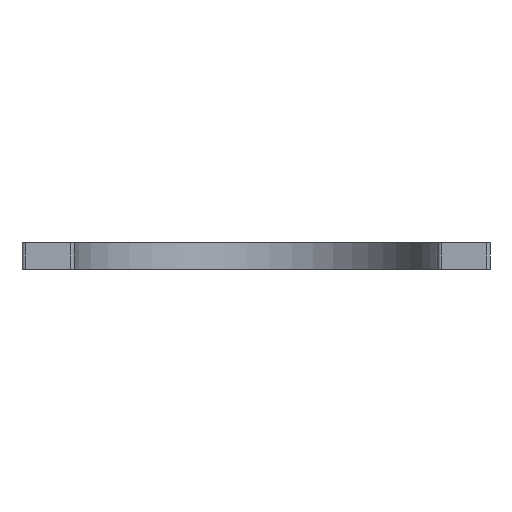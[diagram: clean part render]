
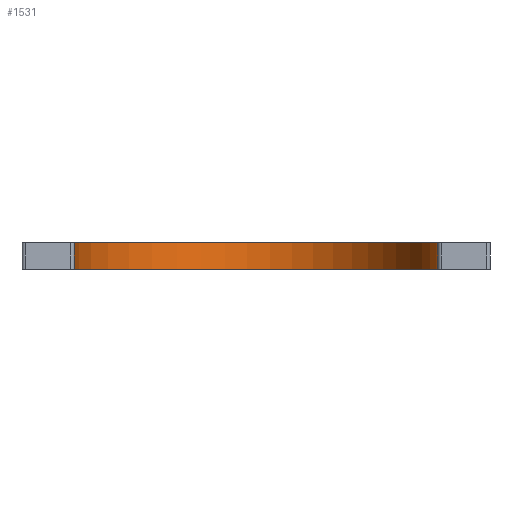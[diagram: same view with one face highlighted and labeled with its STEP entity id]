
A CAD part, front view. The second image highlights one B-rep face of the part: STEP entity #1531.
In plain terms, the highlighted free-form (B-spline) face has degree [3, 1] with [4, 2] control points.
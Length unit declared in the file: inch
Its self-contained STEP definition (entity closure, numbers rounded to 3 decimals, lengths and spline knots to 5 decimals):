
#365 = CARTESIAN_POINT ( 'NONE',  ( 2.1603, 16.96514, 0. ) ) ;
#1287 = CARTESIAN_POINT ( 'NONE',  ( 2.1603, 16.96514, -1. ) ) ;
#1531 = ADVANCED_FACE ( 'NONE', ( #3791 ), #7927, .T. ) ;
#1861 = VERTEX_POINT ( 'NONE', #9642 ) ;
#1959 = CARTESIAN_POINT ( 'NONE',  ( 1.9692, 0.12358, -1. ) ) ;
#1971 =( BOUNDED_CURVE ( )  B_SPLINE_CURVE ( 3, ( #5890, #2918, #3917, #8623 ),
 .UNSPECIFIED., .F., .F. ) 
 B_SPLINE_CURVE_WITH_KNOTS ( ( 4, 4 ),
 ( 4.72666, 7.83972 ),
 .UNSPECIFIED. ) 
 CURVE ( )  GEOMETRIC_REPRESENTATION_ITEM ( )  RATIONAL_B_SPLINE_CURVE ( ( 1., 0.343, 0.343, 1. ) ) 
 REPRESENTATION_ITEM ( '' )  );
#2151 = CARTESIAN_POINT ( 'NONE',  ( 1.9692, 0.12358, -1. ) ) ;
#2188 = CARTESIAN_POINT ( 'NONE',  ( 15.55621, 16.96514, 0. ) ) ;
#2809 = ORIENTED_EDGE ( 'NONE', *, *, #5422, .T. ) ;
#2918 = CARTESIAN_POINT ( 'NONE',  ( 2.1603, 16.96514, -1. ) ) ;
#3003 = VECTOR ( 'NONE', #10654, 39.37008 ) ;
#3133 = CARTESIAN_POINT ( 'NONE',  ( 1.9692, 0.12358, 0. ) ) ;
#3225 =( BOUNDED_CURVE ( )  B_SPLINE_CURVE ( 3, ( #7614, #9459, #2188, #7677 ),
 .UNSPECIFIED., .F., .F. ) 
 B_SPLINE_CURVE_WITH_KNOTS ( ( 4, 4 ),
 ( 4.72666, 7.83972 ),
 .UNSPECIFIED. ) 
 CURVE ( )  GEOMETRIC_REPRESENTATION_ITEM ( )  RATIONAL_B_SPLINE_CURVE ( ( 1., 0.343, 0.343, 1. ) ) 
 REPRESENTATION_ITEM ( '' )  );
#3296 = VERTEX_POINT ( 'NONE', #1959 ) ;
#3453 = CARTESIAN_POINT ( 'NONE',  ( 15.55621, 16.96514, 0. ) ) ;
#3791 = FACE_OUTER_BOUND ( 'NONE', #9599, .T. ) ;
#3917 = CARTESIAN_POINT ( 'NONE',  ( 15.55621, 16.96514, -1. ) ) ;
#4120 = CARTESIAN_POINT ( 'NONE',  ( 15.55621, 16.96514, -1. ) ) ;
#4483 = ORIENTED_EDGE ( 'NONE', *, *, #11230, .F. ) ;
#4595 = CARTESIAN_POINT ( 'NONE',  ( 1.9692, 0.12358, -1. ) ) ;
#5422 = EDGE_CURVE ( 'NONE', #3296, #1861, #1971, .T. ) ;
#5882 = CARTESIAN_POINT ( 'NONE',  ( 1.9692, 0.12358, 0. ) ) ;
#5890 = CARTESIAN_POINT ( 'NONE',  ( 1.9692, 0.12358, -1. ) ) ;
#5976 = LINE ( 'NONE', #11474, #3003 ) ;
#6228 = CARTESIAN_POINT ( 'NONE',  ( 15.74731, 0.12358, -1. ) ) ;
#6247 = VERTEX_POINT ( 'NONE', #5882 ) ;
#7111 = CARTESIAN_POINT ( 'NONE',  ( 15.74731, 0.12358, 0. ) ) ;
#7290 = VERTEX_POINT ( 'NONE', #7111 ) ;
#7614 = CARTESIAN_POINT ( 'NONE',  ( 1.9692, 0.12358, 0. ) ) ;
#7677 = CARTESIAN_POINT ( 'NONE',  ( 15.74731, 0.12358, 0. ) ) ;
#7927 =( BOUNDED_SURFACE ( )  B_SPLINE_SURFACE ( 3, 1, ( 
 ( #2151, #3133 ),
 ( #1287, #365 ),
 ( #4120, #3453 ),
 ( #6228, #11959 ) ),
 .UNSPECIFIED., .F., .F., .F. ) 
 B_SPLINE_SURFACE_WITH_KNOTS ( ( 4, 4 ),
 ( 2, 2 ),
 ( 0., 1. ),
 ( 0., 1. ),
 .UNSPECIFIED. ) 
 GEOMETRIC_REPRESENTATION_ITEM ( )  RATIONAL_B_SPLINE_SURFACE ( (
 ( 1., 1.),
 ( 0.343, 0.343),
 ( 0.343, 0.343),
 ( 1., 1.) ) ) 
 REPRESENTATION_ITEM ( '' )  SURFACE ( )  );
#8062 = EDGE_CURVE ( 'NONE', #1861, #7290, #5976, .T. ) ;
#8396 = EDGE_CURVE ( 'NONE', #6247, #7290, #3225, .T. ) ;
#8623 = CARTESIAN_POINT ( 'NONE',  ( 15.74731, 0.12358, -1. ) ) ;
#9310 = ORIENTED_EDGE ( 'NONE', *, *, #8062, .T. ) ;
#9459 = CARTESIAN_POINT ( 'NONE',  ( 2.1603, 16.96514, 0. ) ) ;
#9599 = EDGE_LOOP ( 'NONE', ( #9978, #4483, #2809, #9310 ) ) ;
#9642 = CARTESIAN_POINT ( 'NONE',  ( 15.74731, 0.12358, -1. ) ) ;
#9974 = LINE ( 'NONE', #4595, #12052 ) ;
#9978 = ORIENTED_EDGE ( 'NONE', *, *, #8396, .F. ) ;
#10092 = DIRECTION ( 'NONE',  ( 0., 0., 1. ) ) ;
#10654 = DIRECTION ( 'NONE',  ( 0., 0., 1. ) ) ;
#11230 = EDGE_CURVE ( 'NONE', #3296, #6247, #9974, .T. ) ;
#11474 = CARTESIAN_POINT ( 'NONE',  ( 15.74731, 0.12358, -1. ) ) ;
#11959 = CARTESIAN_POINT ( 'NONE',  ( 15.74731, 0.12358, 0. ) ) ;
#12052 = VECTOR ( 'NONE', #10092, 39.37008 ) ;
